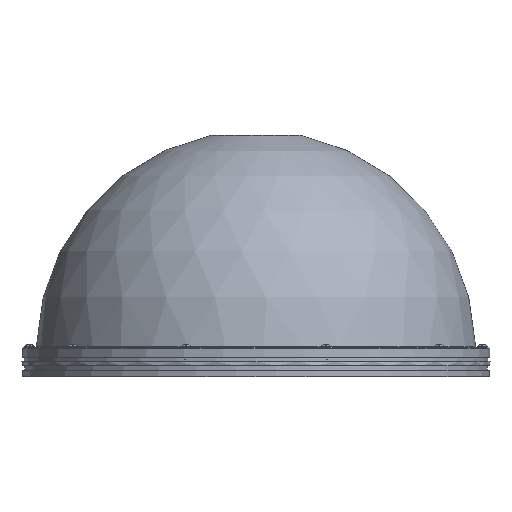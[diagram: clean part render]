
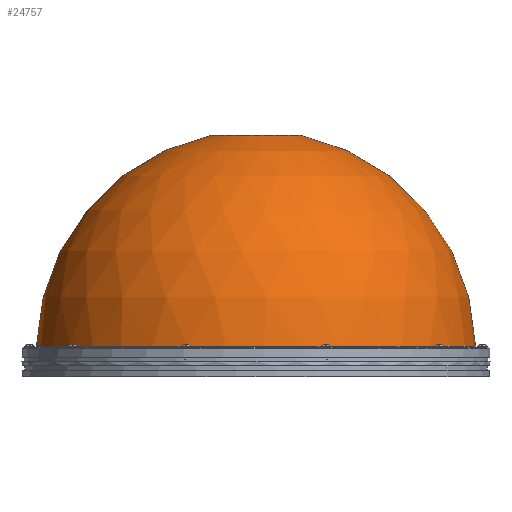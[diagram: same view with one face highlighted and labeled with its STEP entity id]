
A CAD part, left-side view. The second image highlights one B-rep face of the part: STEP entity #24757.
In plain terms, the highlighted spherical face has radius 101 mm.
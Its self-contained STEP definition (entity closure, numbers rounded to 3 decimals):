
#24635=CARTESIAN_POINT('',(96.038,-31.205,13.99));
#24636=VERTEX_POINT('',#24635);
#24644=CARTESIAN_POINT('',(0.,0.,13.99));
#24645=DIRECTION('',(0.951,-0.309,0.));
#24646=DIRECTION('',(0.,0.,-1.));
#24647=AXIS2_PLACEMENT_3D('',#24644,#24646,#24645);
#24648=CIRCLE('',#24647,100.98);
#24649=EDGE_CURVE('',#24636,#24636,#24648,.T.);
#24723=CARTESIAN_POINT('',(0.,0.,12.));
#24724=DIRECTION('',(0.951,-0.309,0.));
#24725=DIRECTION('',(0.,0.,1.));
#24726=AXIS2_PLACEMENT_3D('',#24723,#24725,#24724);
#24727=SPHERICAL_SURFACE('',#24726,101.);
#24728=ORIENTED_EDGE('',*,*,#24649,.F.);
#24729=CARTESIAN_POINT('',(19.487,-6.332,110.9));
#24730=VERTEX_POINT('',#24729);
#24731=CARTESIAN_POINT('',(0.,0.,12.));
#24732=DIRECTION('',(0.951,-0.309,0.02));
#24733=DIRECTION('',(-0.309,-0.951,0.));
#24734=AXIS2_PLACEMENT_3D('',#24731,#24733,#24732);
#24735=CIRCLE('',#24734,101.);
#24736=EDGE_CURVE('',#24636,#24730,#24735,.T.);
#24737=ORIENTED_EDGE('',*,*,#24736,.T.);
#24738=CARTESIAN_POINT('',(-6.332,-19.487,110.9));
#24739=VERTEX_POINT('',#24738);
#24740=CARTESIAN_POINT('',(0.,0.,110.9));
#24741=DIRECTION('',(0.951,-0.309,0.));
#24742=DIRECTION('',(0.,0.,-1.));
#24743=AXIS2_PLACEMENT_3D('',#24740,#24742,#24741);
#24744=CIRCLE('',#24743,20.49);
#24745=EDGE_CURVE('',#24730,#24739,#24744,.T.);
#24746=ORIENTED_EDGE('',*,*,#24745,.T.);
#24747=CARTESIAN_POINT('',(0.,0.,110.9));
#24748=DIRECTION('',(-0.309,-0.951,0.));
#24749=DIRECTION('',(0.,0.,-1.));
#24750=AXIS2_PLACEMENT_3D('',#24747,#24749,#24748);
#24751=CIRCLE('',#24750,20.49);
#24752=EDGE_CURVE('',#24739,#24730,#24751,.T.);
#24753=ORIENTED_EDGE('',*,*,#24752,.T.);
#24754=ORIENTED_EDGE('',*,*,#24736,.F.);
#24755=EDGE_LOOP('',(#24728,#24737,#24746,#24753,#24754));
#24756=FACE_OUTER_BOUND('',#24755,.T.);
#24757=ADVANCED_FACE('',(#24756),#24727,.T.);
